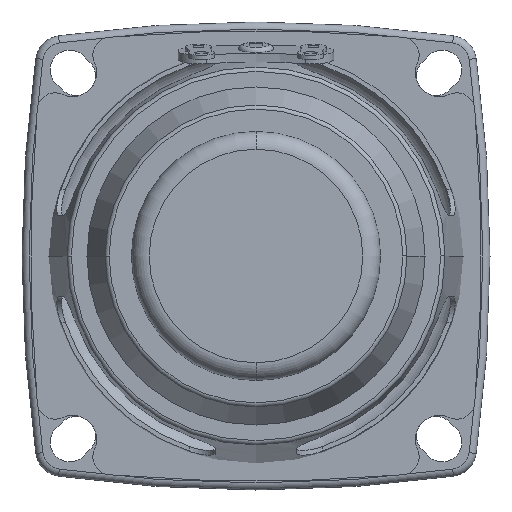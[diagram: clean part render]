
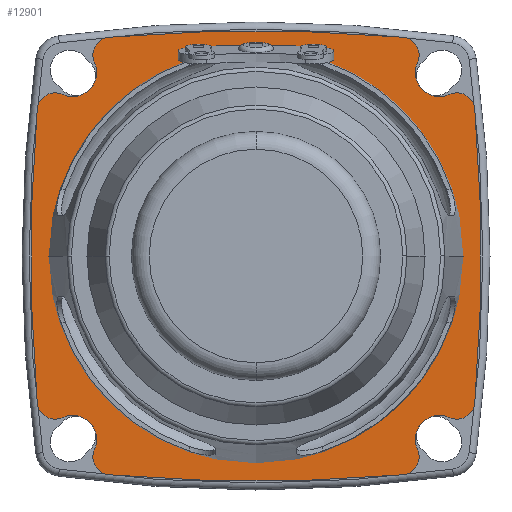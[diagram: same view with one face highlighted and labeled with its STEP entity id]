
A CAD part, front view. The second image highlights one B-rep face of the part: STEP entity #12901.
In plain terms, the highlighted planar face has unit normal (0, -1, 0) as drawn and (0, 0, 1) by its records, which use the part's own axes.
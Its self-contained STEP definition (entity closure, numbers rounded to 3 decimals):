
#12435=CARTESIAN_POINT('',(0.,0.,1.));
#12436=DIRECTION('',(0.,0.,-1.));
#12437=DIRECTION('',(1.,0.,0.));
#12438=AXIS2_PLACEMENT_3D('',#12435,#12436,#12437);
#12443=CARTESIAN_POINT('',(0.,0.,1.));
#12444=DIRECTION('',(0.,0.,-1.));
#12445=DIRECTION('',(-1.,0.,0.));
#12446=AXIS2_PLACEMENT_3D('',#12443,#12444,#12445);
#12451=CARTESIAN_POINT('',(-16.336,22.6,1.));
#12452=DIRECTION('',(0.,0.,1.));
#12453=DIRECTION('',(-0.085,0.996,0.));
#12454=AXIS2_PLACEMENT_3D('',#12451,#12452,#12453);
#12459=CARTESIAN_POINT('',(0.,-167.779,1.));
#12460=DIRECTION('',(0.,0.,1.));
#12461=DIRECTION('',(0.085,0.996,0.));
#12462=AXIS2_PLACEMENT_3D('',#12459,#12460,#12461);
#12467=CARTESIAN_POINT('',(16.336,22.6,1.));
#12468=DIRECTION('',(0.,0.,1.));
#12469=DIRECTION('',(0.908,-0.418,0.));
#12470=AXIS2_PLACEMENT_3D('',#12467,#12468,#12469);
#12475=CARTESIAN_POINT('',(20.622,20.628,1.));
#12476=DIRECTION('',(0.,0.,-1.));
#12477=DIRECTION('',(0.419,-0.908,0.));
#12478=AXIS2_PLACEMENT_3D('',#12475,#12476,#12477);
#12483=CARTESIAN_POINT('',(22.6,16.345,1.));
#12484=DIRECTION('',(0.,0.,1.));
#12485=DIRECTION('',(0.996,0.086,0.));
#12486=AXIS2_PLACEMENT_3D('',#12483,#12484,#12485);
#12491=CARTESIAN_POINT('',(-167.779,0.,1.));
#12492=DIRECTION('',(0.,0.,1.));
#12493=DIRECTION('',(0.996,-0.086,0.));
#12494=AXIS2_PLACEMENT_3D('',#12491,#12492,#12493);
#12499=CARTESIAN_POINT('',(22.6,-16.345,1.));
#12500=DIRECTION('',(0.,0.,1.));
#12501=DIRECTION('',(-0.419,-0.908,0.));
#12502=AXIS2_PLACEMENT_3D('',#12499,#12500,#12501);
#12507=CARTESIAN_POINT('',(20.622,-20.628,1.));
#12508=DIRECTION('',(0.,0.,-1.));
#12509=DIRECTION('',(-0.908,-0.418,0.));
#12510=AXIS2_PLACEMENT_3D('',#12507,#12508,#12509);
#12515=CARTESIAN_POINT('',(16.336,-22.6,1.));
#12516=DIRECTION('',(0.,0.,1.));
#12517=DIRECTION('',(0.085,-0.996,0.));
#12518=AXIS2_PLACEMENT_3D('',#12515,#12516,#12517);
#12523=CARTESIAN_POINT('',(0.,167.779,1.));
#12524=DIRECTION('',(0.,0.,1.));
#12525=DIRECTION('',(-0.085,-0.996,0.));
#12526=AXIS2_PLACEMENT_3D('',#12523,#12524,#12525);
#12531=CARTESIAN_POINT('',(-16.336,-22.6,1.));
#12532=DIRECTION('',(0.,0.,1.));
#12533=DIRECTION('',(-0.908,0.418,0.));
#12534=AXIS2_PLACEMENT_3D('',#12531,#12532,#12533);
#12539=CARTESIAN_POINT('',(-20.622,-20.628,1.));
#12540=DIRECTION('',(0.,0.,-1.));
#12541=DIRECTION('',(-0.419,0.908,0.));
#12542=AXIS2_PLACEMENT_3D('',#12539,#12540,#12541);
#12547=CARTESIAN_POINT('',(-22.6,-16.345,1.));
#12548=DIRECTION('',(0.,0.,1.));
#12549=DIRECTION('',(-0.996,-0.086,0.));
#12550=AXIS2_PLACEMENT_3D('',#12547,#12548,#12549);
#12555=CARTESIAN_POINT('',(167.779,0.,1.));
#12556=DIRECTION('',(0.,0.,1.));
#12557=DIRECTION('',(-0.996,0.086,0.));
#12558=AXIS2_PLACEMENT_3D('',#12555,#12556,#12557);
#12563=CARTESIAN_POINT('',(-22.6,16.345,1.));
#12564=DIRECTION('',(0.,0.,1.));
#12565=DIRECTION('',(0.419,0.908,0.));
#12566=AXIS2_PLACEMENT_3D('',#12563,#12564,#12565);
#12571=CARTESIAN_POINT('',(-20.622,20.628,1.));
#12572=DIRECTION('',(0.,0.,-1.));
#12573=DIRECTION('',(0.908,0.418,0.));
#12574=AXIS2_PLACEMENT_3D('',#12571,#12572,#12573);
#12727=CARTESIAN_POINT('',(23.,0.,1.));
#12728=CARTESIAN_POINT('',(-23.,0.,1.));
#12729=VERTEX_POINT('',#12727);
#12730=VERTEX_POINT('',#12728);
#12731=CARTESIAN_POINT('',(-16.507,24.593,1.));
#12732=CARTESIAN_POINT('',(-18.153,21.764,1.));
#12733=VERTEX_POINT('',#12731);
#12734=VERTEX_POINT('',#12732);
#12735=CARTESIAN_POINT('',(-21.761,18.16,1.));
#12736=VERTEX_POINT('',#12735);
#12737=CARTESIAN_POINT('',(-24.592,16.516,1.));
#12738=VERTEX_POINT('',#12737);
#12739=CARTESIAN_POINT('',(-24.592,-16.516,1.));
#12740=VERTEX_POINT('',#12739);
#12741=CARTESIAN_POINT('',(-21.761,-18.16,1.));
#12742=VERTEX_POINT('',#12741);
#12743=CARTESIAN_POINT('',(-18.153,-21.764,1.));
#12744=VERTEX_POINT('',#12743);
#12745=CARTESIAN_POINT('',(-16.507,-24.593,1.));
#12746=VERTEX_POINT('',#12745);
#12747=CARTESIAN_POINT('',(16.507,-24.593,1.));
#12748=VERTEX_POINT('',#12747);
#12749=CARTESIAN_POINT('',(18.153,-21.764,1.));
#12750=VERTEX_POINT('',#12749);
#12751=CARTESIAN_POINT('',(21.761,-18.16,1.));
#12752=VERTEX_POINT('',#12751);
#12753=CARTESIAN_POINT('',(24.592,-16.516,1.));
#12754=VERTEX_POINT('',#12753);
#12755=CARTESIAN_POINT('',(24.592,16.516,1.));
#12756=VERTEX_POINT('',#12755);
#12757=CARTESIAN_POINT('',(21.761,18.16,1.));
#12758=VERTEX_POINT('',#12757);
#12759=CARTESIAN_POINT('',(18.153,21.764,1.));
#12760=VERTEX_POINT('',#12759);
#12761=CARTESIAN_POINT('',(16.507,24.593,1.));
#12762=VERTEX_POINT('',#12761);
#12858=CARTESIAN_POINT('',(0.,0.,1.));
#12859=DIRECTION('',(0.,0.,1.));
#12860=DIRECTION('',(1.,0.,0.));
#12861=AXIS2_PLACEMENT_3D('',#12858,#12859,#12860);
#12862=PLANE('',#12861);
#12864=ORIENTED_EDGE('',*,*,#12863,.F.);
#12866=ORIENTED_EDGE('',*,*,#12865,.F.);
#12868=ORIENTED_EDGE('',*,*,#12867,.F.);
#12870=ORIENTED_EDGE('',*,*,#12869,.F.);
#12872=ORIENTED_EDGE('',*,*,#12871,.F.);
#12874=ORIENTED_EDGE('',*,*,#12873,.F.);
#12876=ORIENTED_EDGE('',*,*,#12875,.F.);
#12878=ORIENTED_EDGE('',*,*,#12877,.F.);
#12880=ORIENTED_EDGE('',*,*,#12879,.F.);
#12882=ORIENTED_EDGE('',*,*,#12881,.F.);
#12884=ORIENTED_EDGE('',*,*,#12883,.F.);
#12886=ORIENTED_EDGE('',*,*,#12885,.F.);
#12888=ORIENTED_EDGE('',*,*,#12887,.F.);
#12890=ORIENTED_EDGE('',*,*,#12889,.F.);
#12892=ORIENTED_EDGE('',*,*,#12891,.F.);
#12894=ORIENTED_EDGE('',*,*,#12893,.F.);
#12895=EDGE_LOOP('',(#12864,#12866,#12868,#12870,#12872,#12874,#12876,#12878,
#12880,#12882,#12884,#12886,#12888,#12890,#12892,#12894));
#12896=FACE_OUTER_BOUND('',#12895,.F.);
#12897=ORIENTED_EDGE('',*,*,#12824,.F.);
#12898=ORIENTED_EDGE('',*,*,#12845,.F.);
#12899=EDGE_LOOP('',(#12897,#12898));
#12900=FACE_BOUND('',#12899,.F.);
#12901=ADVANCED_FACE('',(#12896,#12900),#12862,.T.);
#12439=CIRCLE('',#12438,23.);
#12447=CIRCLE('',#12446,23.);
#12455=CIRCLE('',#12454,2.);
#12463=CIRCLE('',#12462,193.079);
#12471=CIRCLE('',#12470,2.);
#12479=CIRCLE('',#12478,2.717);
#12487=CIRCLE('',#12486,2.);
#12495=CIRCLE('',#12494,193.079);
#12503=CIRCLE('',#12502,2.);
#12511=CIRCLE('',#12510,2.717);
#12519=CIRCLE('',#12518,2.);
#12527=CIRCLE('',#12526,193.079);
#12535=CIRCLE('',#12534,2.);
#12543=CIRCLE('',#12542,2.717);
#12551=CIRCLE('',#12550,2.);
#12559=CIRCLE('',#12558,193.079);
#12567=CIRCLE('',#12566,2.);
#12575=CIRCLE('',#12574,2.717);
#12824=EDGE_CURVE('',#12729,#12730,#12439,.T.);
#12845=EDGE_CURVE('',#12730,#12729,#12447,.T.);
#12863=EDGE_CURVE('',#12733,#12734,#12455,.T.);
#12865=EDGE_CURVE('',#12762,#12733,#12463,.T.);
#12867=EDGE_CURVE('',#12760,#12762,#12471,.T.);
#12869=EDGE_CURVE('',#12758,#12760,#12479,.T.);
#12871=EDGE_CURVE('',#12756,#12758,#12487,.T.);
#12873=EDGE_CURVE('',#12754,#12756,#12495,.T.);
#12875=EDGE_CURVE('',#12752,#12754,#12503,.T.);
#12877=EDGE_CURVE('',#12750,#12752,#12511,.T.);
#12879=EDGE_CURVE('',#12748,#12750,#12519,.T.);
#12881=EDGE_CURVE('',#12746,#12748,#12527,.T.);
#12883=EDGE_CURVE('',#12744,#12746,#12535,.T.);
#12885=EDGE_CURVE('',#12742,#12744,#12543,.T.);
#12887=EDGE_CURVE('',#12740,#12742,#12551,.T.);
#12889=EDGE_CURVE('',#12738,#12740,#12559,.T.);
#12891=EDGE_CURVE('',#12736,#12738,#12567,.T.);
#12893=EDGE_CURVE('',#12734,#12736,#12575,.T.);
